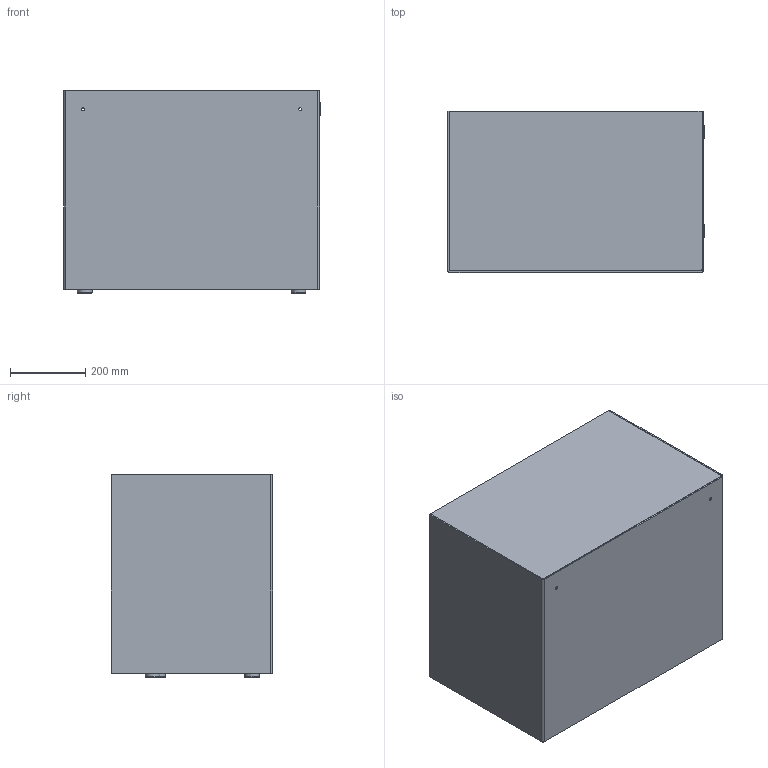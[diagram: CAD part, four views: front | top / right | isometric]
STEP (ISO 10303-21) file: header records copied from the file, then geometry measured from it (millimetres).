
FILE_DESCRIPTION(/* description */ (''),/* implementation_level */ '2;1');
FILE_NAME(/* name */ '11-0000-050790_600MAX Large Bench.stp',/* time_stamp */ '2023-02-08T14:17:17+01:00',/* author */ ('ksj'),/* organization */ (''),/* preprocessor_version */ 'ST-DEVELOPER v19.2',/* originating_system */ 'Autodesk Inventor 2023',/* authorisation */ '');
FILE_SCHEMA (('AUTOMOTIVE_DESIGN { 1 0 10303 214 3 1 1 }'));
Length unit declared in the file: millimetre
Products named in the file (12): 11-0000-050790; 11-0000-0507SV; 11-0000-050701; 11-0000-050702; 11-0000-050703; 11-0000-050704; 10-0000-0402; 10-0000-040201; 10-0000-040202; 10-0000-040203; 10-0000-040204; 1612420
Assembly tree (15 placements, depth 3):
  11-0000-050790
    11-0000-0507SV
      11-0000-050701
      11-0000-050702
      11-0000-050703
      11-0000-050704
    10-0000-0402  x4
      10-0000-040201
      10-0000-040202
      10-0000-040203
      10-0000-040204
    1612420  x2
Bounding box: 684 x 430 x 541 mm (x, y, z)
Volume: 5644310.5 mm3; surface area: 2869787.4 mm2
Topology: 22 solids, 22 shells, 144 faces, 284 edges, 184 vertices
Faces by surface type: plane 108, cylinder 36
Full cylindrical faces by diameter (mm): 8 x2, 22 x4, 22.5 x4, 24 x4, 25 x4, 35 x2, 38 x4, 39 x4
Entity records: 3221 total; most frequent: DIRECTION 513, CARTESIAN_POINT 499, ORIENTED_EDGE 454, EDGE_CURVE 227, LINE 193, VECTOR 193, AXIS2_PLACEMENT_3D 160, VERTEX_POINT 146
